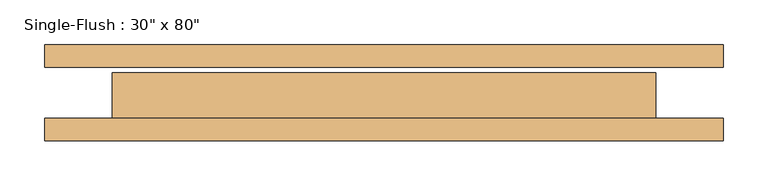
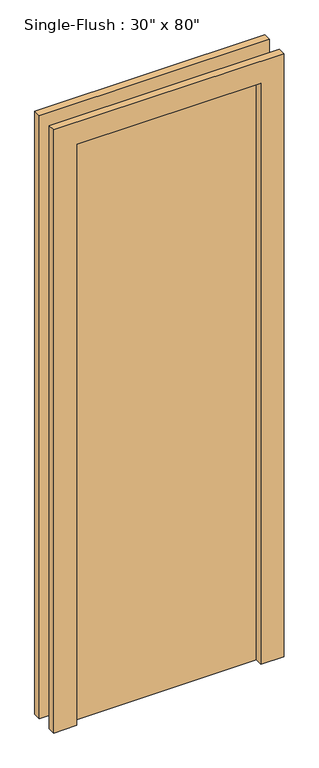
"""IFC4 building model written with IfcOpenShell, lengths in millimetres: door geometry."""

from ifc_helpers import new_model, si_unit, frame, origin, origin_with_axes, place, context, project, spatial, polyline, outline, extrude, source, transform, mapped, element, save


def door_cc1532e9(model_context):
    return source(origin(), model_context, "Body", "SweptSolid", [
        extrude(outline(polyline([(2108.2, -381.0), (0.0, -381.0), (0.0, -304.8), (2032.0, -304.8), (2032.0, 304.8), (0.0, 304.8), (0.0, 381.0), (2108.2, 381.0), (2108.2, -381.0)])), frame((0.0, -53.975, 0.0), z_axis=(0.0, 1.0, 0.0), x_axis=(0.0, 0.0, 1.0)), (0.0, 0.0, 1.0), 25.4),
        extrude(outline(polyline([(2108.2, 381.0), (2108.2, -381.0), (0.0, -381.0), (0.0, -304.8), (2032.0, -304.8), (2032.0, 304.8), (0.0, 304.8), (0.0, 381.0), (2108.2, 381.0)])), frame((0.0, 28.575, 0.0), z_axis=(0.0, 1.0, 0.0), x_axis=(0.0, 0.0, 1.0)), (0.0, 0.0, 1.0), 25.4),
        extrude(outline(polyline([(304.8, 22.225), (304.8, -28.575), (-304.8, -28.575), (-304.8, 22.225), (304.8, 22.225)])), origin_with_axes(), (0.0, 0.0, 1.0), 2032.0),
    ])


if __name__ == "__main__":
    model = new_model("IFC4")
    model_context = context("Model", 3, world=origin())
    ifc_project = project(units=[si_unit("LENGTHUNIT", "METRE", prefix="MILLI")], contexts=[model_context])
    site = spatial("IfcSite", under=ifc_project)
    building = spatial("IfcBuilding", under=site)
    placement = place(None, origin())
    door_shape = door_cc1532e9(model_context)
    element("IfcDoor", 1, ObjectType="Single-Flush : 30\" x 80\"", at=placement, inside=building, context=model_context, shape_type="MappedRepresentation", body=[
        mapped(door_shape, transform((0.0, 0.0, 0.0), x_axis=(1.0, 0.0, 0.0), y_axis=(0.0, 1.0, 0.0), z_axis=(0.0, 0.0, 1.0))),
    ])
    save(model, "model.ifc")
